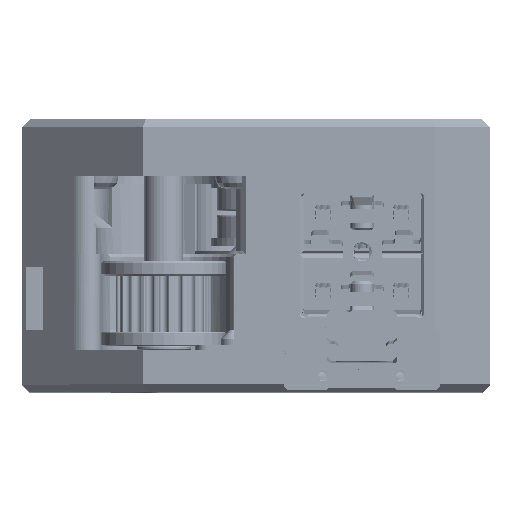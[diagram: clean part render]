
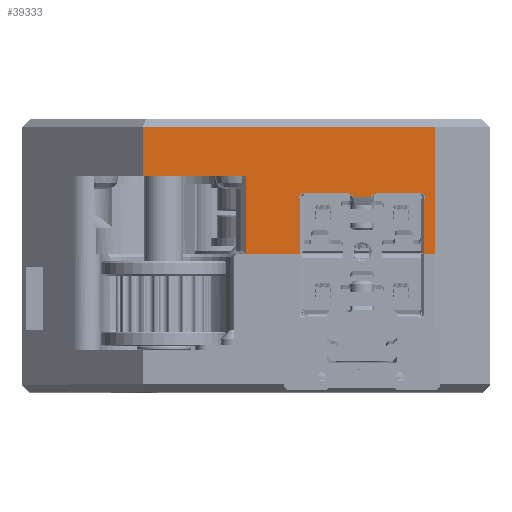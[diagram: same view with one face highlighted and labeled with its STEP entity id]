
A CAD part, top view. The second image highlights one B-rep face of the part: STEP entity #39333.
In plain terms, the highlighted planar face has unit normal (0, 0, 1).
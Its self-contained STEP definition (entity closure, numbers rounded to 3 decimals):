
#97=ELLIPSE('',#43289,0.227,0.1);
#98=ELLIPSE('',#43290,0.227,0.1);
#1844=PLANE('',#43286);
#4703=FACE_OUTER_BOUND('',#7011,.T.);
#7011=EDGE_LOOP('',(#36347,#36348,#36349,#36350,#36351,#36352,#36353,#36354,
#36355,#36356,#36357,#36358,#36359,#36360,#36361,#36362,#36363,#36364));
#10807=LINE('',#123473,#13699);
#10867=LINE('',#123690,#13759);
#10902=LINE('',#123824,#13794);
#10903=LINE('',#123826,#13795);
#10904=LINE('',#123828,#13796);
#10905=LINE('',#123830,#13797);
#10906=LINE('',#123836,#13798);
#10907=LINE('',#123840,#13799);
#10908=LINE('',#123844,#13800);
#10909=LINE('',#123849,#13801);
#10910=LINE('',#123851,#13802);
#10911=LINE('',#123852,#13803);
#13699=VECTOR('',#53044,10.);
#13759=VECTOR('',#53222,10.);
#13794=VECTOR('',#53319,10.);
#13795=VECTOR('',#53320,10.);
#13796=VECTOR('',#53321,10.);
#13797=VECTOR('',#53322,10.);
#13798=VECTOR('',#53327,10.);
#13799=VECTOR('',#53330,10.);
#13800=VECTOR('',#53333,10.);
#13801=VECTOR('',#53338,10.);
#13802=VECTOR('',#53339,10.);
#13803=VECTOR('',#53340,10.);
#15624=CIRCLE('',#43287,0.55);
#15625=CIRCLE('',#43288,0.7);
#15626=CIRCLE('',#43291,0.7);
#15627=CIRCLE('',#43292,0.55);
#19274=VERTEX_POINT('',#123470);
#19275=VERTEX_POINT('',#123472);
#19349=VERTEX_POINT('',#123687);
#19350=VERTEX_POINT('',#123689);
#19387=VERTEX_POINT('',#123823);
#19388=VERTEX_POINT('',#123825);
#19389=VERTEX_POINT('',#123827);
#19390=VERTEX_POINT('',#123829);
#19391=VERTEX_POINT('',#123831);
#19392=VERTEX_POINT('',#123833);
#19393=VERTEX_POINT('',#123835);
#19394=VERTEX_POINT('',#123837);
#19395=VERTEX_POINT('',#123839);
#19396=VERTEX_POINT('',#123841);
#19397=VERTEX_POINT('',#123843);
#19398=VERTEX_POINT('',#123845);
#19399=VERTEX_POINT('',#123847);
#19400=VERTEX_POINT('',#123850);
#24928=EDGE_CURVE('',#19275,#19274,#10807,.T.);
#25028=EDGE_CURVE('',#19349,#19350,#10867,.T.);
#25084=EDGE_CURVE('',#19349,#19387,#10902,.T.);
#25085=EDGE_CURVE('',#19387,#19388,#10903,.T.);
#25086=EDGE_CURVE('',#19389,#19388,#10904,.T.);
#25087=EDGE_CURVE('',#19390,#19389,#10905,.T.);
#25088=EDGE_CURVE('',#19391,#19390,#15624,.T.);
#25089=EDGE_CURVE('',#19392,#19391,#15625,.T.);
#25090=EDGE_CURVE('',#19393,#19392,#10906,.T.);
#25091=EDGE_CURVE('',#19394,#19393,#97,.T.);
#25092=EDGE_CURVE('',#19395,#19394,#10907,.T.);
#25093=EDGE_CURVE('',#19396,#19395,#98,.T.);
#25094=EDGE_CURVE('',#19397,#19396,#10908,.T.);
#25095=EDGE_CURVE('',#19398,#19397,#15626,.T.);
#25096=EDGE_CURVE('',#19399,#19398,#15627,.T.);
#25097=EDGE_CURVE('',#19275,#19399,#10909,.T.);
#25098=EDGE_CURVE('',#19400,#19274,#10910,.T.);
#25099=EDGE_CURVE('',#19350,#19400,#10911,.T.);
#36347=ORIENTED_EDGE('',*,*,#25084,.T.);
#36348=ORIENTED_EDGE('',*,*,#25085,.T.);
#36349=ORIENTED_EDGE('',*,*,#25086,.F.);
#36350=ORIENTED_EDGE('',*,*,#25087,.F.);
#36351=ORIENTED_EDGE('',*,*,#25088,.F.);
#36352=ORIENTED_EDGE('',*,*,#25089,.F.);
#36353=ORIENTED_EDGE('',*,*,#25090,.F.);
#36354=ORIENTED_EDGE('',*,*,#25091,.F.);
#36355=ORIENTED_EDGE('',*,*,#25092,.F.);
#36356=ORIENTED_EDGE('',*,*,#25093,.F.);
#36357=ORIENTED_EDGE('',*,*,#25094,.F.);
#36358=ORIENTED_EDGE('',*,*,#25095,.F.);
#36359=ORIENTED_EDGE('',*,*,#25096,.F.);
#36360=ORIENTED_EDGE('',*,*,#25097,.F.);
#36361=ORIENTED_EDGE('',*,*,#24928,.T.);
#36362=ORIENTED_EDGE('',*,*,#25098,.F.);
#36363=ORIENTED_EDGE('',*,*,#25099,.F.);
#36364=ORIENTED_EDGE('',*,*,#25028,.F.);
#39333=ADVANCED_FACE('',(#4703),#1844,.T.);
#43286=AXIS2_PLACEMENT_3D('',#123822,#53317,#53318);
#43287=AXIS2_PLACEMENT_3D('',#123832,#53323,#53324);
#43288=AXIS2_PLACEMENT_3D('',#123834,#53325,#53326);
#43289=AXIS2_PLACEMENT_3D('',#123838,#53328,#53329);
#43290=AXIS2_PLACEMENT_3D('',#123842,#53331,#53332);
#43291=AXIS2_PLACEMENT_3D('',#123846,#53334,#53335);
#43292=AXIS2_PLACEMENT_3D('',#123848,#53336,#53337);
#53044=DIRECTION('',(1.,0.,0.));
#53222=DIRECTION('',(0.,1.,0.));
#53317=DIRECTION('center_axis',(0.,0.,
1.));
#53318=DIRECTION('ref_axis',(1.,0.,0.));
#53319=DIRECTION('',(1.,0.,0.));
#53320=DIRECTION('',(0.,-1.,0.));
#53321=DIRECTION('',(-1.,0.,0.));
#53322=DIRECTION('',(0.,-1.,0.));
#53323=DIRECTION('center_axis',(0.,0.,
1.));
#53324=DIRECTION('ref_axis',(-0.447,0.894,0.));
#53325=DIRECTION('center_axis',(0.,0.,
-1.));
#53326=DIRECTION('ref_axis',(-0.316,-0.949,0.));
#53327=DIRECTION('',(-1.,0.,0.));
#53328=DIRECTION('center_axis',(0.,0.,
-1.));
#53329=DIRECTION('ref_axis',(0.196,-0.981,0.));
#53330=DIRECTION('',(-1.,0.,0.));
#53331=DIRECTION('center_axis',(0.,0.,
-1.));
#53332=DIRECTION('ref_axis',(-0.196,-0.981,0.));
#53333=DIRECTION('',(-1.,0.,0.));
#53334=DIRECTION('center_axis',(0.,0.,
-1.));
#53335=DIRECTION('ref_axis',(0.316,-0.949,0.));
#53336=DIRECTION('center_axis',(0.,0.,
1.));
#53337=DIRECTION('ref_axis',(0.447,0.894,0.));
#53338=DIRECTION('',(0.,1.,0.));
#53339=DIRECTION('',(0.,-1.,0.));
#53340=DIRECTION('',(1.,0.,0.));
#123470=CARTESIAN_POINT('',(17.,-16.25,37.));
#123472=CARTESIAN_POINT('',(15.6,-16.25,37.));
#123473=CARTESIAN_POINT('',(4.095,-16.25,37.));
#123687=CARTESIAN_POINT('',(-20.515,-6.25,37.));
#123689=CARTESIAN_POINT('',(-20.515,0.,37.));
#123690=CARTESIAN_POINT('',(-20.515,-12.75,37.));
#123822=CARTESIAN_POINT('Origin',(0.1,-9.,37.));
#123823=CARTESIAN_POINT('',(-7.32,-6.25,37.));
#123824=CARTESIAN_POINT('',(-2.95,-6.25,37.));
#123825=CARTESIAN_POINT('',(-7.32,-16.25,37.));
#123826=CARTESIAN_POINT('',(-7.32,-8.125,37.));
#123827=CARTESIAN_POINT('',(-0.4,-16.25,37.));
#123828=CARTESIAN_POINT('',(-4.28,-16.25,37.));
#123829=CARTESIAN_POINT('',(-0.4,-9.229,37.));
#123830=CARTESIAN_POINT('',(-0.4,-16.5,37.));
#123831=CARTESIAN_POINT('',(0.43,-8.56,37.));
#123832=CARTESIAN_POINT('Origin',(0.1,-9.,37.));
#123833=CARTESIAN_POINT('',(0.85,-8.7,37.));
#123834=CARTESIAN_POINT('Origin',(0.85,-8.,37.));
#123835=CARTESIAN_POINT('',(6.397,-8.7,37.));
#123836=CARTESIAN_POINT('',(3.825,-8.7,37.));
#123837=CARTESIAN_POINT('',(6.535,-8.929,37.));
#123838=CARTESIAN_POINT('Origin',(6.499,-8.706,37.));
#123839=CARTESIAN_POINT('',(8.665,-8.929,37.));
#123840=CARTESIAN_POINT('',(1.975,-8.929,37.));
#123841=CARTESIAN_POINT('',(8.803,-8.7,37.));
#123842=CARTESIAN_POINT('Origin',(8.701,-8.706,37.));
#123843=CARTESIAN_POINT('',(14.35,-8.7,37.));
#123844=CARTESIAN_POINT('',(3.825,-8.7,37.));
#123845=CARTESIAN_POINT('',(14.77,-8.56,37.));
#123846=CARTESIAN_POINT('Origin',(14.35,-8.,37.));
#123847=CARTESIAN_POINT('',(15.6,-9.229,37.));
#123848=CARTESIAN_POINT('Origin',(15.1,-9.,37.));
#123849=CARTESIAN_POINT('',(15.6,-16.5,37.));
#123850=CARTESIAN_POINT('',(17.,0.,37.));
#123851=CARTESIAN_POINT('',(17.,-12.75,37.));
#123852=CARTESIAN_POINT('',(3.825,0.,37.));
